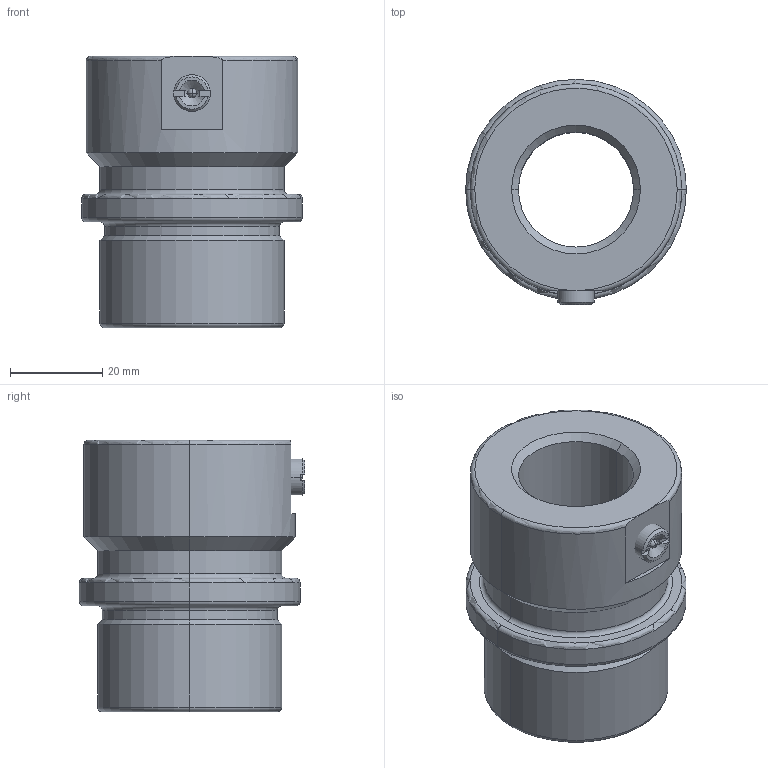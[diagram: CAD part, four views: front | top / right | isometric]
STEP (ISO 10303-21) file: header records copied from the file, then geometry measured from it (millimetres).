
FILE_DESCRIPTION(('CATIA V5 STEP Exchange'),'2;1');
FILE_NAME('C:\Users\Utente\Desktop\IO LAVORO\3D X SITO CF\X SITO\744\744-25.stp','2020-12-23T21:18:43+00:00',('none'),('none'),'CATIA Version 5 Release 20 GA (IN-10)','CATIA V5 STEP AP203','none');
FILE_SCHEMA(('CONFIG_CONTROL_DESIGN'));
Length unit declared in the file: millimetre
Products named in the file (1): 744-25
Bounding box: 48 x 49 x 59 mm (x, y, z)
Volume: 56881.4 mm3; surface area: 15986.3 mm2
Topology: 2 solids, 2 shells, 67 faces, 155 edges, 91 vertices
Faces by surface type: cylinder 16, plane 16, cone 16, torus 15, sphere 4
Entity records: 2024 total; most frequent: CARTESIAN_POINT 531, ORIENTED_EDGE 302, DIRECTION 266, AXIS2_PLACEMENT_3D 155, EDGE_CURVE 151, VERTEX_POINT 91, CIRCLE 87, EDGE_LOOP 74
